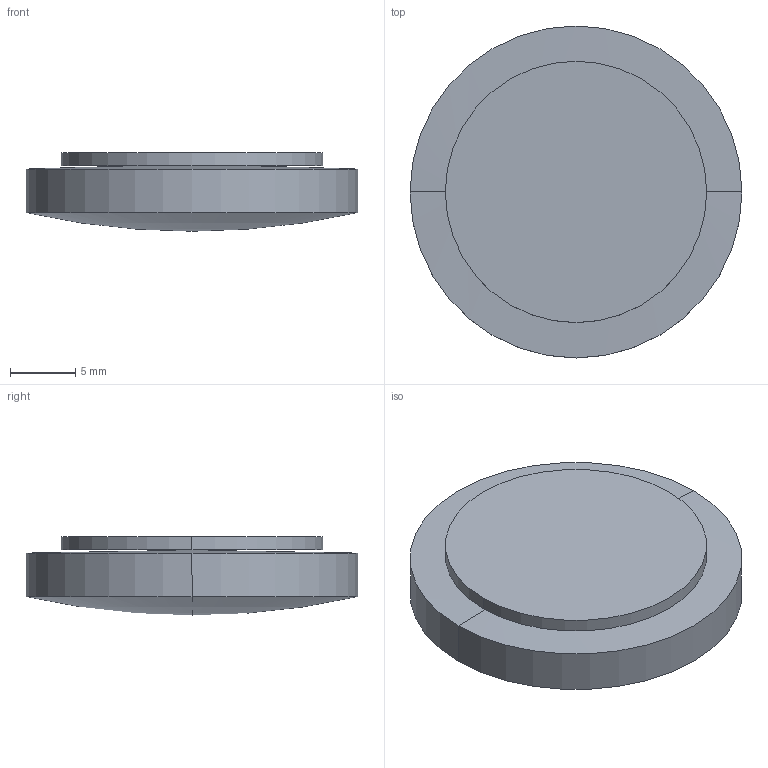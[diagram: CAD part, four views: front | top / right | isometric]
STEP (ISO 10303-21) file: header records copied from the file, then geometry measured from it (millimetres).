
FILE_DESCRIPTION(('STEP AP214'),'1');
FILE_NAME('LLU-25100.STEP','2020-03-09T17:42:08',(' '),(' '),'Spatial InterOp 3D',' ',' ');
FILE_SCHEMA(('AUTOMOTIVE_DESIGN { 1 0 10303 214 1 1 1 1 }'));
Length unit declared in the file: millimetre
Products named in the file (1): 1
Bounding box: 25.4 x 25.4 x 6 mm (x, y, z)
Volume: 2425.4 mm3; surface area: 1976.6 mm2
Topology: 2 solids, 2 shells, 10 faces, 20 edges, 10 vertices
Faces by surface type: sphere 4, cylinder 4, plane 2
Entity records: 255 total; most frequent: DIRECTION 52, CARTESIAN_POINT 38, ORIENTED_EDGE 32, AXIS2_PLACEMENT_3D 24, EDGE_CURVE 16, CIRCLE 12, ADVANCED_FACE 10, FACE_OUTER_BOUND 10
